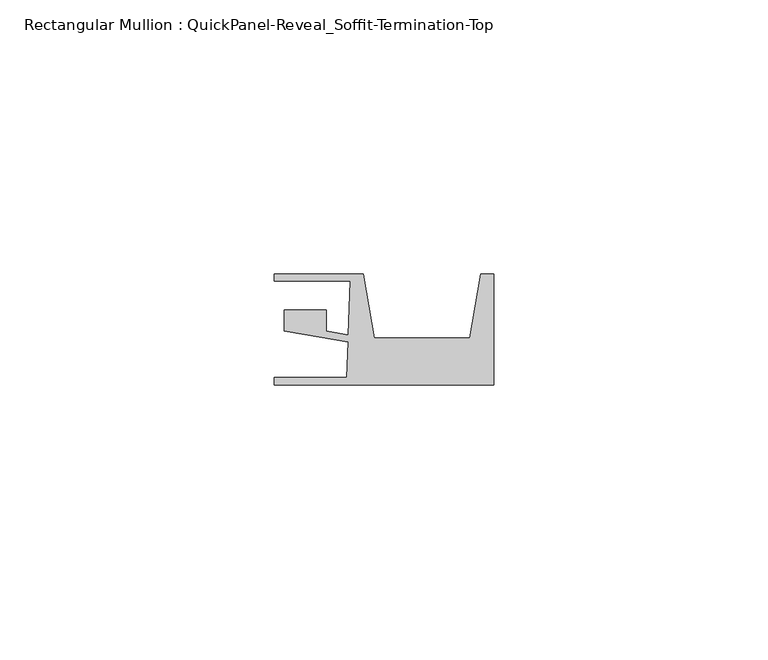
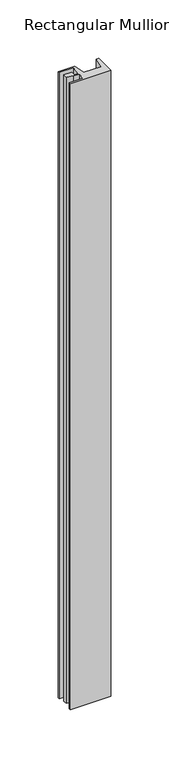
"""IFC4 building model written with IfcOpenShell, lengths in millimetres: member geometry, Rectangular Mullion : QuickPanel-Reveal_Soffit-Termination-Top."""

from ifc_helpers import new_model, si_unit, frame, origin, place, context, project, spatial, polyline, outline, extrude, source, transform, mapped, element, save


def rectangular_mullion_quickpanel_reveal_soffit_termination_top_eee424d8(model_context):
    return source(origin(), model_context, "Body", "SweptSolid", [
        extrude(outline(polyline([(-40.0272216, -8.095605), (-40.0272216, -6.6935423), (-26.7863089, -6.6935423), (-26.5595237, -0.1992641), (-31.8098046, 0.7008023), (-38.2451373, 1.8040245), (-38.2451373, 5.6493034), (-30.5003642, 5.6493034), (-30.5003642, 1.7648465), (-26.5147952, 1.0815922), (-26.1708682, 10.9303752), (-40.0272216, 10.9303752), (-40.0272216, 12.1803727), (-23.8142192, 12.1803727), (-21.8189903, 0.5417732), (-4.3518779, 0.5417732), (-2.3566489, 12.1803727), (0.0, 12.1803727), (0.0, -8.095605), (-40.0272216, -8.095605)])), frame((0.0, 0.0, -654.9485599), z_axis=(0.0, 0.0, 1.0), x_axis=(1.0, 0.0, 0.0)), (0.0, 0.0, 1.0), 654.9485599),
    ])


if __name__ == "__main__":
    model = new_model("IFC4")
    model_context = context("Model", 3, world=origin())
    ifc_project = project(units=[si_unit("LENGTHUNIT", "METRE", prefix="MILLI")], contexts=[model_context])
    site = spatial("IfcSite", under=ifc_project)
    building = spatial("IfcBuilding", under=site)
    placement = place(None, origin())
    rectangular_mullion_quickpanel_reveal_soffit_termination_top_shape = rectangular_mullion_quickpanel_reveal_soffit_termination_top_eee424d8(model_context)
    element("IfcMember", 1, ObjectType="Rectangular Mullion : QuickPanel-Reveal_Soffit-Termination-Top", at=placement, inside=building, context=model_context, shape_type="MappedRepresentation", body=[
        mapped(rectangular_mullion_quickpanel_reveal_soffit_termination_top_shape, transform((0.0, 0.0, 0.0), x_axis=(1.0, 0.0, 0.0), y_axis=(0.0, 1.0, 0.0), z_axis=(0.0, 0.0, 1.0))),
    ])
    save(model, "model.ifc")
